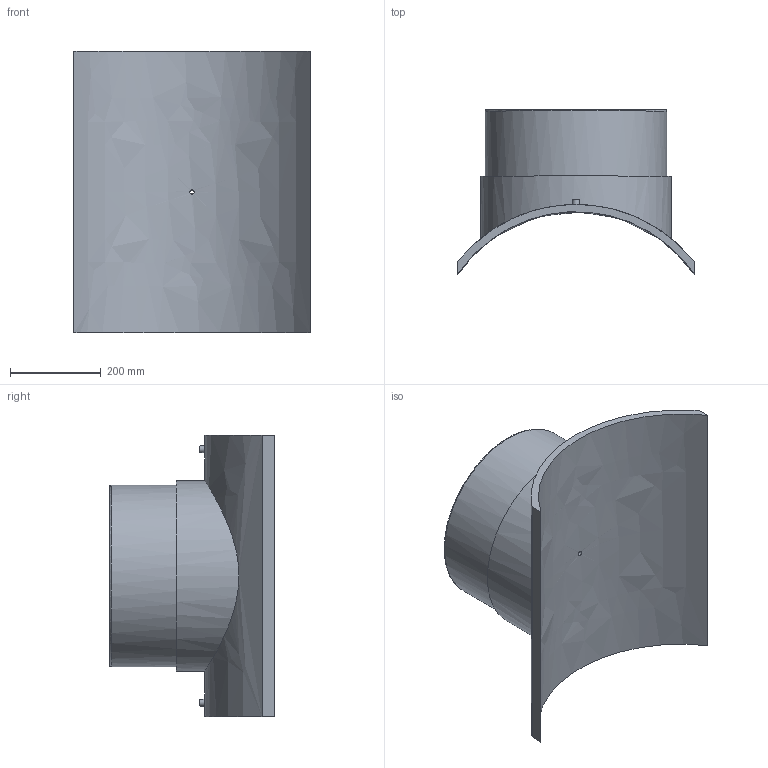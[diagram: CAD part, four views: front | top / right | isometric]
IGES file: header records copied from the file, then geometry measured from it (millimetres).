
Global section: file name: 495803630400T; native system: Autodesk Inventor 2019; preprocessor: unknown; author: KIM; date: 20240404.114950; units: millimetre
Bounding box: 520 x 362.17 x 620 mm (x, y, z)
Volume: 17912280.3 mm3; surface area: 1350445.9 mm2
Topology: 1 solids, 1 shells, 29 faces, 60 edges, 43 vertices
Faces by surface type: bspline 29
